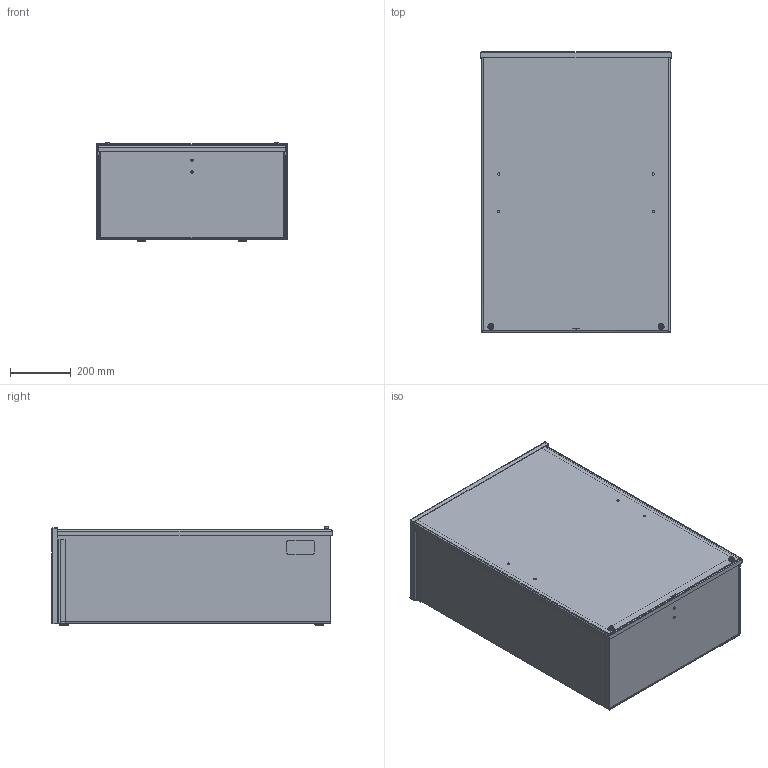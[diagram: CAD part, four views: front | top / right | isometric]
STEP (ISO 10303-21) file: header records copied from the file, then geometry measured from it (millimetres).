
FILE_DESCRIPTION (( 'STEP AP203' ), '1' );
FILE_NAME ('58234.STEP', '2022-10-07T17:33:16', ( '' ), ( '' ), 'SwSTEP 2.0', 'SolidWorks 2020', '' );
FILE_SCHEMA (( 'CONFIG_CONTROL_DESIGN' ));
Length unit declared in the file: inch
Products named in the file (22): 78164005_OPEN; 22101001; 89221148_WELDMENTBOTTOM  NK 24X12; 78170101_78170101; 30170005; 79210001_STAPLE,CT; 87788412; 87780048; 43439002; 89060046; 58110007; 89060045_89060045; 89060042; 79211001_HANDLE, PLTD; 58234; 99401422_99401422; 22157003; 89221149_WELDMENTBODY 24X24X12; 89221142_COVER 36 X 36  A60 GALV; 89221147_BOTTOM  NK24X12 A60 GALV; 43104001; 89221139_BODY 36 X 36 X 12  A60 GALV
Assembly tree (34 placements, depth 4):
  58234
    89221149_WELDMENTBODY 24X24X12
      89221139_BODY 36 X 36 X 12  A60 GALV
      43439002
      89221148_WELDMENTBOTTOM  NK 24X12
        89221147_BOTTOM  NK24X12 A60 GALV
        58110007  x2
        30170005  x2
    89221142_COVER 36 X 36  A60 GALV
    87780048
    22157003  x2
    22101001  x2
    43104001  x2
    78170101_78170101
      87788412
      79210001_STAPLE,CT
      79211001_HANDLE, PLTD  x2
        89060042
        30170005
      99401422_99401422  x6
      78164005_OPEN
        89060046
        89060045_89060045
Bounding box: 626.36 x 920.61 x 323.19 mm (x, y, z)
Volume: 5076207.6 mm3; surface area: 4682999.4 mm2
Topology: 32 solids, 32 shells, 1419 faces, 3316 edges, 2000 vertices
Faces by surface type: cylinder 421, plane 394, cone 346, bspline 186, torus 68, sphere 4
Entity records: 26521 total; most frequent: CARTESIAN_POINT 8960, DIRECTION 3146, ORIENTED_EDGE 3020, EDGE_CURVE 1510, AXIS2_PLACEMENT_3D 1210, VERTEX_POINT 903, EDGE_LOOP 743, VECTOR 726
